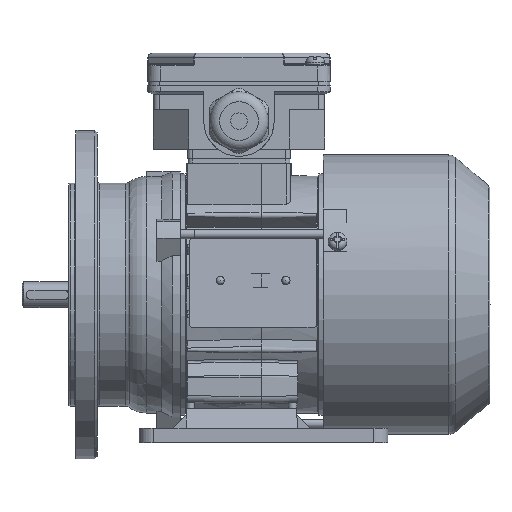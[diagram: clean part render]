
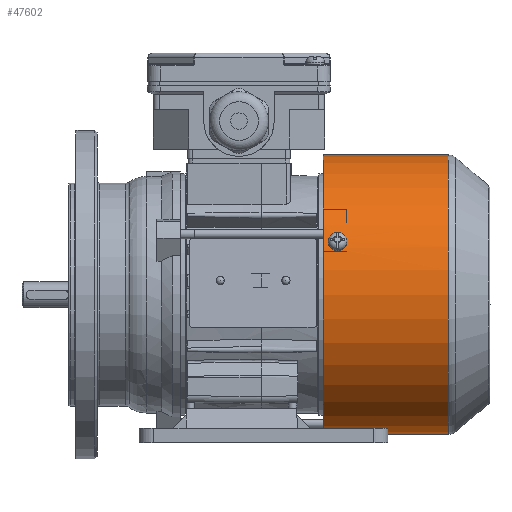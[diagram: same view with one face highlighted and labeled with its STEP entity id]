
A CAD part, front view. The second image highlights one B-rep face of the part: STEP entity #47602.
In plain terms, the highlighted cylindrical face has radius 59.6 mm (diameter 119.2 mm), a full revolution.
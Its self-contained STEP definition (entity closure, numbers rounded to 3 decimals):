
#757=B_SPLINE_CURVE_WITH_KNOTS('',3,(#71107,#71108,#71109,#71110,#71111,
#71112,#71113),.UNSPECIFIED.,.F.,.F.,(4,1,1,1,4),(0.,0.002,
0.004,0.006,0.008),
 .UNSPECIFIED.);
#759=B_SPLINE_CURVE_WITH_KNOTS('',3,(#71131,#71132,#71133,#71134,#71135,
#71136,#71137),.UNSPECIFIED.,.F.,.F.,(4,1,1,1,4),(0.,
0.002,0.004,0.006,0.008),
 .UNSPECIFIED.);
#761=B_SPLINE_CURVE_WITH_KNOTS('',3,(#71158,#71159,#71160,#71161,#71162,
#71163,#71164),.UNSPECIFIED.,.F.,.F.,(4,1,1,1,4),(0.,0.002,
0.004,0.006,0.008),
 .UNSPECIFIED.);
#763=B_SPLINE_CURVE_WITH_KNOTS('',3,(#71182,#71183,#71184,#71185,#71186,
#71187,#71188),.UNSPECIFIED.,.F.,.F.,(4,1,1,1,4),(0.,0.002,
0.004,0.006,0.008),
 .UNSPECIFIED.);
#764=B_SPLINE_CURVE_WITH_KNOTS('',3,(#71194,#71195,#71196,#71197,#71198,
#71199,#71200),.UNSPECIFIED.,.F.,.F.,(4,1,1,1,4),(0.,
0.002,0.004,0.006,0.007),
 .UNSPECIFIED.);
#765=B_SPLINE_CURVE_WITH_KNOTS('',3,(#71203,#71204,#71205,#71206,#71207,
#71208,#71209),.UNSPECIFIED.,.F.,.F.,(4,1,1,1,4),(0.,
0.002,0.004,0.006,0.007),
 .UNSPECIFIED.);
#2646=CIRCLE('',#49492,59.6);
#3201=CIRCLE('',#50661,59.6);
#3203=CIRCLE('',#50665,59.6);
#3204=CIRCLE('',#50667,59.6);
#3206=CIRCLE('',#50671,59.6);
#3208=CIRCLE('',#50676,59.6);
#10942=ORIENTED_EDGE('',*,*,#17628,.T.);
#10943=ORIENTED_EDGE('',*,*,#17625,.T.);
#10944=ORIENTED_EDGE('',*,*,#17633,.T.);
#10945=ORIENTED_EDGE('',*,*,#17631,.T.);
#10946=ORIENTED_EDGE('',*,*,#17634,.F.);
#10947=ORIENTED_EDGE('',*,*,#17635,.F.);
#10948=ORIENTED_EDGE('',*,*,#17615,.T.);
#10949=ORIENTED_EDGE('',*,*,#17612,.T.);
#10950=ORIENTED_EDGE('',*,*,#17620,.T.);
#10951=ORIENTED_EDGE('',*,*,#17618,.T.);
#10952=ORIENTED_EDGE('',*,*,#16009,.F.);
#10953=ORIENTED_EDGE('',*,*,#17621,.T.);
#16009=EDGE_CURVE('',#20435,#20435,#2646,.T.);
#17612=EDGE_CURVE('',#21530,#21533,#757,.T.);
#17615=EDGE_CURVE('',#21534,#21530,#3201,.F.);
#17618=EDGE_CURVE('',#21536,#21534,#759,.T.);
#17620=EDGE_CURVE('',#21533,#21536,#3203,.F.);
#17621=EDGE_CURVE('',#21538,#21538,#3204,.F.);
#17625=EDGE_CURVE('',#21539,#21542,#761,.T.);
#17628=EDGE_CURVE('',#21543,#21539,#3206,.F.);
#17631=EDGE_CURVE('',#21545,#21543,#763,.T.);
#17633=EDGE_CURVE('',#21542,#21545,#3208,.F.);
#17634=EDGE_CURVE('',#21547,#21548,#764,.T.);
#17635=EDGE_CURVE('',#21548,#21547,#765,.T.);
#20435=VERTEX_POINT('',#67460);
#21530=VERTEX_POINT('',#71095);
#21533=VERTEX_POINT('',#71106);
#21534=VERTEX_POINT('',#71116);
#21536=VERTEX_POINT('',#71122);
#21538=VERTEX_POINT('',#71143);
#21539=VERTEX_POINT('',#71146);
#21542=VERTEX_POINT('',#71157);
#21543=VERTEX_POINT('',#71167);
#21545=VERTEX_POINT('',#71173);
#21547=VERTEX_POINT('',#71201);
#21548=VERTEX_POINT('',#71202);
#29423=EDGE_LOOP('',(#10942,#10943,#10944,#10945));
#29424=EDGE_LOOP('',(#10946,#10947));
#29425=EDGE_LOOP('',(#10948,#10949,#10950,#10951));
#29426=EDGE_LOOP('',(#10952));
#29427=EDGE_LOOP('',(#10953));
#31722=FACE_BOUND('',#29423,.T.);
#31723=FACE_BOUND('',#29424,.T.);
#31724=FACE_BOUND('',#29425,.T.);
#31725=FACE_BOUND('',#29426,.T.);
#31726=FACE_BOUND('',#29427,.T.);
#32796=CYLINDRICAL_SURFACE('',#50677,59.6);
#47602=ADVANCED_FACE('',(#31722,#31723,#31724,#31725,#31726),#32796,.T.);
#49492=AXIS2_PLACEMENT_3D('',#67459,#55264,#55265);
#50661=AXIS2_PLACEMENT_3D('',#71119,#58543,#58544);
#50665=AXIS2_PLACEMENT_3D('',#71140,#58552,#58553);
#50667=AXIS2_PLACEMENT_3D('',#71142,#58556,#58557);
#50671=AXIS2_PLACEMENT_3D('',#71170,#58567,#58568);
#50676=AXIS2_PLACEMENT_3D('',#71192,#58578,#58579);
#50677=AXIS2_PLACEMENT_3D('',#71193,#58580,#58581);
#55264=DIRECTION('',(-1.,0.,0.));
#55265=DIRECTION('',(0.,0.,1.));
#58543=DIRECTION('',(-1.,0.,0.));
#58544=DIRECTION('',(0.,0.866,-0.5));
#58552=DIRECTION('',(1.,0.,0.));
#58553=DIRECTION('',(0.,-0.866,0.5));
#58556=DIRECTION('',(1.,0.,0.));
#58557=DIRECTION('',(0.,0.,-1.));
#58567=DIRECTION('',(-1.,0.,0.));
#58568=DIRECTION('',(0.,0.,1.));
#58578=DIRECTION('',(1.,0.,0.));
#58579=DIRECTION('',(0.,0.,-1.));
#58580=DIRECTION('',(-1.,0.,0.));
#58581=DIRECTION('',(0.,0.,1.));
#67459=CARTESIAN_POINT('',(26.5,0.,0.));
#67460=CARTESIAN_POINT('',(26.5,0.,59.6));
#71095=CARTESIAN_POINT('',(35.,46.437,37.36));
#71106=CARTESIAN_POINT('',(30.,46.437,37.36));
#71107=CARTESIAN_POINT('',(35.,46.437,37.36));
#71108=CARTESIAN_POINT('',(35.,46.023,37.874));
#71109=CARTESIAN_POINT('',(34.458,45.191,38.867));
#71110=CARTESIAN_POINT('',(32.502,44.648,39.479));
#71111=CARTESIAN_POINT('',(30.542,45.19,38.869));
#71112=CARTESIAN_POINT('',(30.,46.023,37.874));
#71113=CARTESIAN_POINT('',(30.,46.437,37.36));
#71116=CARTESIAN_POINT('',(35.,47.484,36.02));
#71119=CARTESIAN_POINT('',(35.,0.,0.));
#71122=CARTESIAN_POINT('',(30.,47.484,36.02));
#71131=CARTESIAN_POINT('',(30.,47.484,36.02));
#71132=CARTESIAN_POINT('',(30.,47.883,35.493));
#71133=CARTESIAN_POINT('',(30.542,48.645,34.446));
#71134=CARTESIAN_POINT('',(32.498,49.108,33.771));
#71135=CARTESIAN_POINT('',(34.458,48.646,34.444));
#71136=CARTESIAN_POINT('',(35.,47.883,35.493));
#71137=CARTESIAN_POINT('',(35.,47.484,36.02));
#71140=CARTESIAN_POINT('',(30.,0.,0.));
#71142=CARTESIAN_POINT('',(79.809,0.,0.));
#71143=CARTESIAN_POINT('',(79.809,0.,-59.6));
#71146=CARTESIAN_POINT('',(35.,-55.573,21.536));
#71157=CARTESIAN_POINT('',(30.,-55.573,21.536));
#71158=CARTESIAN_POINT('',(35.,-55.573,21.536));
#71159=CARTESIAN_POINT('',(35.,-55.812,20.92));
#71160=CARTESIAN_POINT('',(34.458,-56.255,19.703));
#71161=CARTESIAN_POINT('',(32.502,-56.514,18.927));
#71162=CARTESIAN_POINT('',(30.542,-56.256,19.701));
#71163=CARTESIAN_POINT('',(30.,-55.812,20.92));
#71164=CARTESIAN_POINT('',(30.,-55.573,21.536));
#71167=CARTESIAN_POINT('',(35.,-54.936,23.112));
#71170=CARTESIAN_POINT('',(35.,0.,0.));
#71173=CARTESIAN_POINT('',(30.,-54.936,23.112));
#71182=CARTESIAN_POINT('',(30.,-54.936,23.112));
#71183=CARTESIAN_POINT('',(30.,-54.68,23.721));
#71184=CARTESIAN_POINT('',(30.542,-54.154,24.905));
#71185=CARTESIAN_POINT('',(32.498,-53.8,25.643));
#71186=CARTESIAN_POINT('',(34.458,-54.153,24.907));
#71187=CARTESIAN_POINT('',(35.,-54.68,23.721));
#71188=CARTESIAN_POINT('',(35.,-54.936,23.112));
#71192=CARTESIAN_POINT('',(30.,0.,0.));
#71193=CARTESIAN_POINT('',(-33.5,0.,0.));
#71194=CARTESIAN_POINT('',(35.,8.295,-59.02));
#71195=CARTESIAN_POINT('',(34.937,7.681,-59.106));
#71196=CARTESIAN_POINT('',(34.356,6.499,-59.249));
#71197=CARTESIAN_POINT('',(32.502,5.777,-59.318));
#71198=CARTESIAN_POINT('',(30.649,6.493,-59.25));
#71199=CARTESIAN_POINT('',(30.063,7.681,-59.106));
#71200=CARTESIAN_POINT('',(30.,8.295,-59.02));
#71201=CARTESIAN_POINT('',(35.,8.295,-59.02));
#71202=CARTESIAN_POINT('',(30.,8.295,-59.02));
#71203=CARTESIAN_POINT('',(30.,8.295,-59.02));
#71204=CARTESIAN_POINT('',(30.063,8.908,-58.934));
#71205=CARTESIAN_POINT('',(30.644,10.084,-58.746));
#71206=CARTESIAN_POINT('',(32.498,10.797,-58.613));
#71207=CARTESIAN_POINT('',(34.351,10.09,-58.745));
#71208=CARTESIAN_POINT('',(34.937,8.908,-58.934));
#71209=CARTESIAN_POINT('',(35.,8.295,-59.02));
